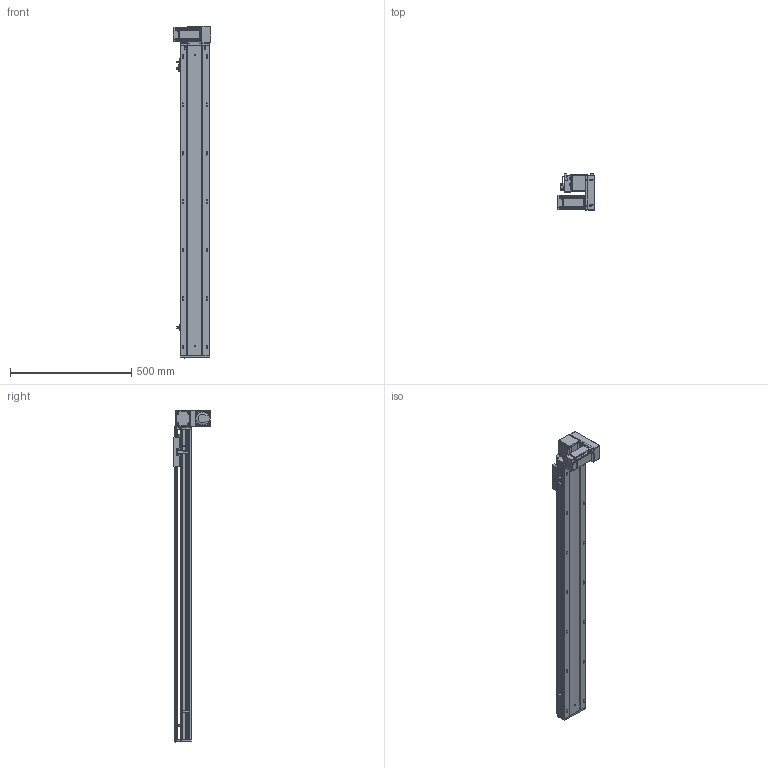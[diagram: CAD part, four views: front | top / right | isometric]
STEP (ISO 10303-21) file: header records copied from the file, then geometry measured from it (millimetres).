
FILE_DESCRIPTION (( 'STEP AP203' ), '1' );
FILE_NAME ('RY120-T-300-DR.SLDASM_1050.step', '2021-03-01T03:35:50', ( '盈信电脑' ), ( '东莞市道滘镇水果街19号' ), 'SwSTEP 2.0', 'SolidWorks 2012', '' );
FILE_SCHEMA (( 'CONFIG_CONTROL_DESIGN' ));
Products named in the file (17): RY120-T-300-DR.SLDASM_1050; RY120-T萇儂假蚾啣; RY120-T萇儂欶; RY120-T主同步轮轴承压盖; RY120-T蹟翐M4; 15; 滅袉蝶18-10; RY120-T翋肮祭盓傅釱; RY120-T翋肮祭謫裔啣; RY120-T肮祭湍揤踡輸2; 覜茼ん672; RY120-T肮祭湍揤踡輸1; RY120外置感应片(140共用）; RY120-T-300-DR倰第奻裔啣_1050; RY120肮祭湍臏賑輸; RY120綴裔啣; RY120-T-300-DR倰第菁釱_1050
Assembly tree (22 placements, depth 2):
  RY120-T-300-DR.SLDASM_1050
    RY120-T-300-DR倰第菁釱_1050
    RY120-T-300-DR倰第奻裔啣_1050
    RY120肮祭湍臏賑輸
    RY120綴裔啣
    覜茼ん672  x3
    RY120外置感应片(140共用）
    RY120-T肮祭湍揤踡輸1
    RY120-T肮祭湍揤踡輸2
    RY120-T翋肮祭盓傅釱
    滅袉蝶18-10  x2
    RY120-T翋肮祭謫裔啣
    15
    RY120-T萇儂假蚾啣
    RY120-T蹟翐M4  x4
    RY120-T萇儂欶
    RY120-T主同步轮轴承压盖
Bounding box: 155.5 x 150 x 1371 mm (x, y, z)
Volume: 3727245.8 mm3; surface area: 1393716.4 mm2
Topology: 23 solids, 23 shells, 2824 faces, 7692 edges, 4928 vertices
Faces by surface type: plane 1416, cylinder 1066, cone 253, bspline 89
Entity records: 89641 total; most frequent: CARTESIAN_POINT 22686, ORIENTED_EDGE 13800, DIRECTION 13086, EDGE_CURVE 6900, VERTEX_POINT 4515, AXIS2_PLACEMENT_3D 4383, LINE 4320, VECTOR 4320
